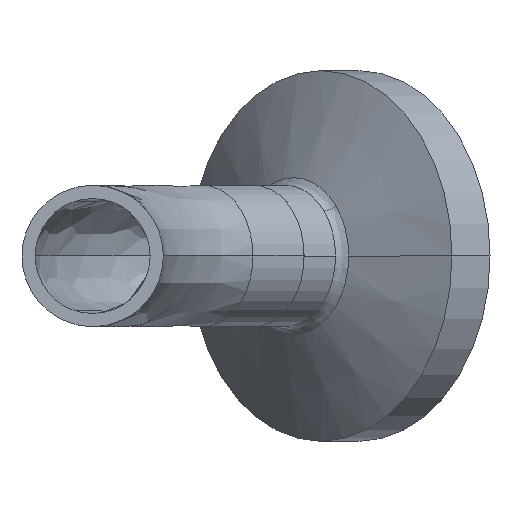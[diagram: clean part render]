
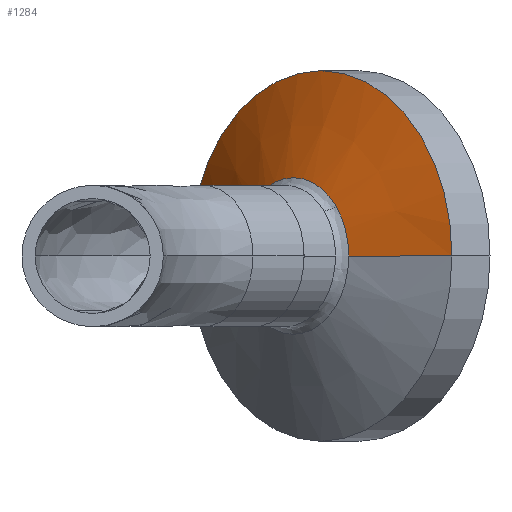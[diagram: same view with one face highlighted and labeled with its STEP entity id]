
A CAD part, front view. The second image highlights one B-rep face of the part: STEP entity #1284.
In plain terms, the highlighted conical face has half-angle 70 degrees and reference radius 12.497 mm.
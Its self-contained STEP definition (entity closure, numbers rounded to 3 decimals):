
#15 = EDGE_LOOP ( 'NONE', ( #1181, #781, #1206, #1067, #1319 ) ) ;
#34 = CONICAL_SURFACE ( 'NONE', #1252, 12.497, 1.222 ) ;
#42 = CARTESIAN_POINT ( 'NONE',  ( 24.229, 57.356, 0. ) ) ;
#55 = CARTESIAN_POINT ( 'NONE',  ( 6.556, 75.029, 0. ) ) ;
#91 = EDGE_CURVE ( 'NONE', #413, #316, #539, .T. ) ;
#102 = DIRECTION ( 'NONE',  ( -0.707, 0.707, 0. ) ) ;
#111 = EDGE_CURVE ( 'NONE', #473, #413, #1305, .T. ) ;
#134 = CIRCLE ( 'NONE', #367, 5.281 ) ;
#217 = DIRECTION ( 'NONE',  ( 0.543, -0.543, 0.64 ) ) ;
#220 = DIRECTION ( 'NONE',  ( 0.707, 0.707, 0. ) ) ;
#221 = CARTESIAN_POINT ( 'NONE',  ( 16.403, 61.467, 3.381 ) ) ;
#247 = CARTESIAN_POINT ( 'NONE',  ( 9.801, 68.069, 0. ) ) ;
#284 = CIRCLE ( 'NONE', #704, 12.497 ) ;
#290 = DIRECTION ( 'NONE',  ( 0.707, 0.707, 0. ) ) ;
#316 = VERTEX_POINT ( 'NONE', #42 ) ;
#319 = CARTESIAN_POINT ( 'NONE',  ( 13.535, 64.335, 0. ) ) ;
#367 = AXIS2_PLACEMENT_3D ( 'NONE', #319, #290, #217 ) ;
#413 = VERTEX_POINT ( 'NONE', #691 ) ;
#473 = VERTEX_POINT ( 'NONE', #221 ) ;
#487 = DIRECTION ( 'NONE',  ( 0.543, -0.543, 0.64 ) ) ;
#515 = DIRECTION ( 'NONE',  ( -0.423, 0.906, 0. ) ) ;
#523 = DIRECTION ( 'NONE',  ( 0.543, -0.543, 0.64 ) ) ;
#530 = VECTOR ( 'NONE', #515, 1000. ) ;
#535 = EDGE_CURVE ( 'NONE', #1076, #473, #134, .T. ) ;
#539 = LINE ( 'NONE', #699, #1336 ) ;
#568 = EDGE_CURVE ( 'NONE', #316, #1226, #284, .T. ) ;
#594 = DIRECTION ( 'NONE',  ( -0.707, -0.707, 0. ) ) ;
#604 = FACE_OUTER_BOUND ( 'NONE', #15, .T. ) ;
#612 = CARTESIAN_POINT ( 'NONE',  ( 15.392, 66.192, 0. ) ) ;
#691 = CARTESIAN_POINT ( 'NONE',  ( 17.269, 60.601, 0. ) ) ;
#699 = CARTESIAN_POINT ( 'NONE',  ( 24.229, 57.356, 0. ) ) ;
#704 = AXIS2_PLACEMENT_3D ( 'NONE', #612, #594, #487 ) ;
#753 = CARTESIAN_POINT ( 'NONE',  ( 6.556, 75.029, 0. ) ) ;
#781 = ORIENTED_EDGE ( 'NONE', *, *, #111, .T. ) ;
#808 = LINE ( 'NONE', #55, #530 ) ;
#818 = DIRECTION ( 'NONE',  ( 0.707, 0.707, 0. ) ) ;
#870 = AXIS2_PLACEMENT_3D ( 'NONE', #1323, #818, #523 ) ;
#1067 = ORIENTED_EDGE ( 'NONE', *, *, #568, .T. ) ;
#1076 = VERTEX_POINT ( 'NONE', #247 ) ;
#1079 = EDGE_CURVE ( 'NONE', #1076, #1226, #808, .T. ) ;
#1099 = CARTESIAN_POINT ( 'NONE',  ( 15.392, 66.192, 0. ) ) ;
#1159 = DIRECTION ( 'NONE',  ( 0.906, -0.423, 0. ) ) ;
#1181 = ORIENTED_EDGE ( 'NONE', *, *, #535, .T. ) ;
#1206 = ORIENTED_EDGE ( 'NONE', *, *, #91, .T. ) ;
#1226 = VERTEX_POINT ( 'NONE', #753 ) ;
#1252 = AXIS2_PLACEMENT_3D ( 'NONE', #1099, #220, #102 ) ;
#1284 = ADVANCED_FACE ( 'NONE', ( #604 ), #34, .T. ) ;
#1305 = CIRCLE ( 'NONE', #870, 5.281 ) ;
#1319 = ORIENTED_EDGE ( 'NONE', *, *, #1079, .F. ) ;
#1323 = CARTESIAN_POINT ( 'NONE',  ( 13.535, 64.335, 0. ) ) ;
#1336 = VECTOR ( 'NONE', #1159, 1000. ) ;
